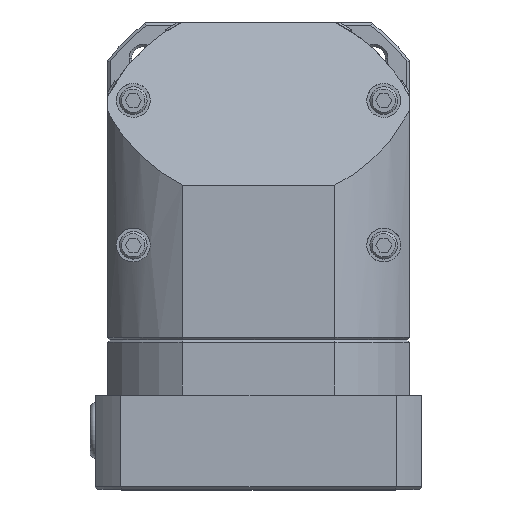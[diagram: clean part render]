
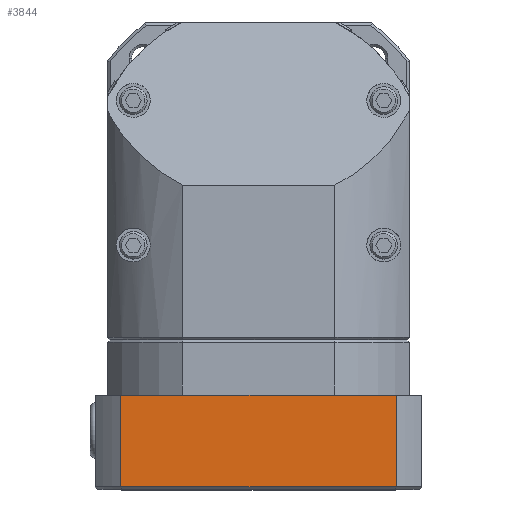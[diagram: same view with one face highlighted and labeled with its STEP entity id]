
A CAD part, top view. The second image highlights one B-rep face of the part: STEP entity #3844.
In plain terms, the highlighted planar face has unit normal (0, 0, 1).
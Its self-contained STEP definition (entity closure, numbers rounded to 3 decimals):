
#460 = LINE ( 'NONE', #14970, #13196 ) ;
#907 = ORIENTED_EDGE ( 'NONE', *, *, #9068, .T. ) ;
#1174 = VECTOR ( 'NONE', #14659, 1000. ) ;
#1682 = LINE ( 'NONE', #9125, #1174 ) ;
#1697 = EDGE_CURVE ( 'NONE', #2823, #13350, #6699, .T. ) ;
#2823 = VERTEX_POINT ( 'NONE', #9284 ) ;
#3077 = VERTEX_POINT ( 'NONE', #6791 ) ;
#3092 = CARTESIAN_POINT ( 'NONE',  ( -298.287, -51.843, 282. ) ) ;
#3668 = CARTESIAN_POINT ( 'NONE',  ( -188.742, -51.843, 282. ) ) ;
#3844 = ADVANCED_FACE ( 'NONE', ( #11151 ), #10811, .T. ) ;
#4220 = DIRECTION ( 'NONE',  ( 0., -1., 0. ) ) ;
#5301 = CARTESIAN_POINT ( 'NONE',  ( -188.742, -88.343, 282. ) ) ;
#5935 = CARTESIAN_POINT ( 'NONE',  ( -243.514, -51.843, 282. ) ) ;
#6203 = ORIENTED_EDGE ( 'NONE', *, *, #8572, .F. ) ;
#6449 = VECTOR ( 'NONE', #7959, 1000. ) ;
#6570 = CARTESIAN_POINT ( 'NONE',  ( -298.287, -88.343, 282. ) ) ;
#6589 = LINE ( 'NONE', #5301, #6449 ) ;
#6699 = LINE ( 'NONE', #3092, #10310 ) ;
#6791 = CARTESIAN_POINT ( 'NONE',  ( -188.742, -88.343, 282. ) ) ;
#7959 = DIRECTION ( 'NONE',  ( 1., 0., 0. ) ) ;
#8315 = DIRECTION ( 'NONE',  ( -1., 0., 0. ) ) ;
#8572 = EDGE_CURVE ( 'NONE', #10880, #3077, #1682, .T. ) ;
#9068 = EDGE_CURVE ( 'NONE', #10880, #2823, #460, .T. ) ;
#9125 = CARTESIAN_POINT ( 'NONE',  ( -188.742, -51.843, 282. ) ) ;
#9284 = CARTESIAN_POINT ( 'NONE',  ( -298.287, -51.843, 282. ) ) ;
#10310 = VECTOR ( 'NONE', #4220, 1000. ) ;
#10811 = PLANE ( 'NONE',  #13074 ) ;
#10880 = VERTEX_POINT ( 'NONE', #3668 ) ;
#11041 = EDGE_CURVE ( 'NONE', #13350, #3077, #6589, .T. ) ;
#11151 = FACE_OUTER_BOUND ( 'NONE', #13506, .T. ) ;
#12177 = DIRECTION ( 'NONE',  ( 0., 0., 1. ) ) ;
#13074 = AXIS2_PLACEMENT_3D ( 'NONE', #5935, #12177, #13456 ) ;
#13196 = VECTOR ( 'NONE', #8315, 1000. ) ;
#13350 = VERTEX_POINT ( 'NONE', #6570 ) ;
#13456 = DIRECTION ( 'NONE',  ( 0., 1., 0. ) ) ;
#13506 = EDGE_LOOP ( 'NONE', ( #14288, #13940, #6203, #907 ) ) ;
#13940 = ORIENTED_EDGE ( 'NONE', *, *, #11041, .T. ) ;
#14288 = ORIENTED_EDGE ( 'NONE', *, *, #1697, .T. ) ;
#14659 = DIRECTION ( 'NONE',  ( 0., -1., 0. ) ) ;
#14970 = CARTESIAN_POINT ( 'NONE',  ( -243.514, -51.843, 282. ) ) ;
